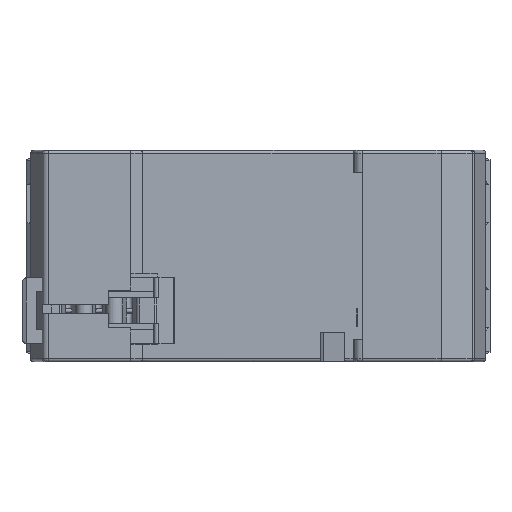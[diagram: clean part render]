
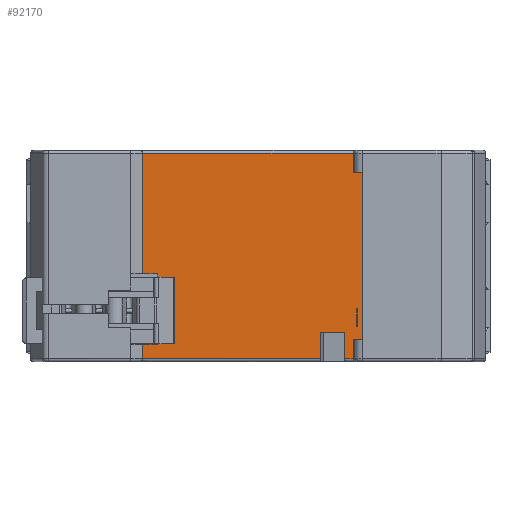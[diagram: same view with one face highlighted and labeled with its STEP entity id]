
A CAD part, front view. The second image highlights one B-rep face of the part: STEP entity #92170.
In plain terms, the highlighted planar face has unit normal (0, -1, 0).
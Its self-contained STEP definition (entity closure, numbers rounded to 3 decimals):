
#5303=DIRECTION('',(0.,0.,1.));
#5304=VECTOR('',#5303,34.6);
#5305=CARTESIAN_POINT('',(56.5,5.5,-17.3));
#5306=LINE('',#5305,#5304);
#5315=DIRECTION('',(1.,0.,0.));
#5316=VECTOR('',#5315,0.556);
#5317=CARTESIAN_POINT('',(22.,5.5,-14.8));
#5318=LINE('',#5317,#5316);
#5319=DIRECTION('',(0.,0.,1.));
#5320=VECTOR('',#5319,11.2);
#5321=CARTESIAN_POINT('',(22.556,5.5,-14.8));
#5322=LINE('',#5321,#5320);
#5323=DIRECTION('',(1.,0.,0.));
#5324=VECTOR('',#5323,0.556);
#5325=CARTESIAN_POINT('',(22.,5.5,-3.6));
#5326=LINE('',#5325,#5324);
#5327=DIRECTION('',(1.,0.,0.));
#5328=VECTOR('',#5327,2.5);
#5329=CARTESIAN_POINT('',(19.5,5.5,-2.95));
#5330=LINE('',#5329,#5328);
#5331=DIRECTION('',(0.,0.,1.));
#5332=VECTOR('',#5331,20.25);
#5333=CARTESIAN_POINT('',(19.5,5.5,-2.95));
#5334=LINE('',#5333,#5332);
#5335=DIRECTION('',(1.,0.,0.));
#5336=VECTOR('',#5335,37.);
#5337=CARTESIAN_POINT('',(19.5,5.5,17.3));
#5338=LINE('',#5337,#5336);
#5339=DIRECTION('',(-1.,0.,0.));
#5340=VECTOR('',#5339,2.938);
#5341=CARTESIAN_POINT('',(56.5,5.5,-17.3));
#5342=LINE('',#5341,#5340);
#5343=DIRECTION('',(0.,0.,1.));
#5344=VECTOR('',#5343,4.5);
#5345=CARTESIAN_POINT('',(53.562,5.5,-17.3));
#5346=LINE('',#5345,#5344);
#5347=DIRECTION('',(-1.,0.,0.));
#5348=VECTOR('',#5347,4.062);
#5349=CARTESIAN_POINT('',(53.562,5.5,-12.8));
#5350=LINE('',#5349,#5348);
#5351=DIRECTION('',(0.,0.,1.));
#5352=VECTOR('',#5351,4.5);
#5353=CARTESIAN_POINT('',(49.5,5.5,-17.3));
#5354=LINE('',#5353,#5352);
#5355=DIRECTION('',(-1.,0.,0.));
#5356=VECTOR('',#5355,30.);
#5357=CARTESIAN_POINT('',(49.5,5.5,-17.3));
#5358=LINE('',#5357,#5356);
#5359=DIRECTION('',(0.,0.,-1.));
#5360=VECTOR('',#5359,2.4);
#5361=CARTESIAN_POINT('',(19.5,5.5,-14.9));
#5362=LINE('',#5361,#5360);
#5363=DIRECTION('',(1.,0.,0.));
#5364=VECTOR('',#5363,2.5);
#5365=CARTESIAN_POINT('',(19.5,5.5,-14.9));
#5366=LINE('',#5365,#5364);
#5367=DIRECTION('',(0.,0.,-1.));
#5368=VECTOR('',#5367,2.95);
#5369=CARTESIAN_POINT('',(55.7,5.5,-8.9));
#5370=LINE('',#5369,#5368);
#5371=DIRECTION('',(0.,0.,-1.));
#5372=VECTOR('',#5371,2.95);
#5373=CARTESIAN_POINT('',(55.6,5.5,-8.9));
#5374=LINE('',#5373,#5372);
#5375=DIRECTION('',(1.,0.,0.));
#5376=VECTOR('',#5375,0.1);
#5377=CARTESIAN_POINT('',(55.6,5.5,-11.85));
#5378=LINE('',#5377,#5376);
#5437=DIRECTION('',(0.,0.,-1.));
#5438=VECTOR('',#5437,0.1);
#5439=CARTESIAN_POINT('',(22.,5.5,-14.8));
#5440=LINE('',#5439,#5438);
#40027=DIRECTION('',(-1.,0.,0.));
#40028=VECTOR('',#40027,0.1);
#40029=CARTESIAN_POINT('',(55.7,5.5,-8.9));
#40030=LINE('',#40029,#40028);
#51307=DIRECTION('',(0.,0.,-1.));
#51308=VECTOR('',#51307,0.65);
#51309=CARTESIAN_POINT('',(22.,5.5,-2.95));
#51310=LINE('',#51309,#51308);
#66842=CARTESIAN_POINT('',(49.5,5.5,-17.3));
#66866=CARTESIAN_POINT('',(53.562,5.5,-17.3));
#69165=CARTESIAN_POINT('',(19.5,5.5,-14.9));
#69166=CARTESIAN_POINT('',(22.,5.5,-14.9));
#69167=VERTEX_POINT('',#69165);
#69168=VERTEX_POINT('',#69166);
#71359=CARTESIAN_POINT('',(53.562,5.5,-12.8));
#71360=CARTESIAN_POINT('',(49.5,5.5,-12.8));
#71361=VERTEX_POINT('',#71359);
#71362=VERTEX_POINT('',#71360);
#71919=CARTESIAN_POINT('',(56.5,5.5,-17.3));
#71920=VERTEX_POINT('',#71919);
#71922=VERTEX_POINT('',#66866);
#71923=VERTEX_POINT('',#66842);
#71927=CARTESIAN_POINT('',(19.5,5.5,-17.3));
#71928=VERTEX_POINT('',#71927);
#73098=CARTESIAN_POINT('',(55.7,5.5,-11.85));
#73099=VERTEX_POINT('',#73098);
#75012=CARTESIAN_POINT('',(55.6,5.5,-8.9));
#75014=VERTEX_POINT('',#75012);
#75100=CARTESIAN_POINT('',(19.5,5.5,-2.95));
#75101=CARTESIAN_POINT('',(22.,5.5,-2.95));
#75102=VERTEX_POINT('',#75100);
#75103=VERTEX_POINT('',#75101);
#77962=CARTESIAN_POINT('',(55.6,5.5,-11.85));
#77964=VERTEX_POINT('',#77962);
#77967=CARTESIAN_POINT('',(55.7,5.5,-8.9));
#77969=VERTEX_POINT('',#77967);
#82422=CARTESIAN_POINT('',(56.5,5.5,17.3));
#82423=VERTEX_POINT('',#82422);
#82426=CARTESIAN_POINT('',(19.5,5.5,17.3));
#82427=VERTEX_POINT('',#82426);
#86588=CARTESIAN_POINT('',(22.,5.5,-14.8));
#86589=CARTESIAN_POINT('',(22.556,5.5,-14.8));
#86590=VERTEX_POINT('',#86588);
#86591=VERTEX_POINT('',#86589);
#86592=CARTESIAN_POINT('',(22.,5.5,-3.6));
#86593=CARTESIAN_POINT('',(22.556,5.5,-3.6));
#86594=VERTEX_POINT('',#86592);
#86595=VERTEX_POINT('',#86593);
#92122=CARTESIAN_POINT('',(19.5,5.5,-8.9));
#92123=DIRECTION('',(0.,-1.,0.));
#92124=DIRECTION('',(1.,0.,0.));
#92125=AXIS2_PLACEMENT_3D('',#92122,#92123,#92124);
#92126=PLANE('',#92125);
#92128=ORIENTED_EDGE('',*,*,#92127,.T.);
#92130=ORIENTED_EDGE('',*,*,#92129,.T.);
#92132=ORIENTED_EDGE('',*,*,#92131,.F.);
#92134=ORIENTED_EDGE('',*,*,#92133,.F.);
#92136=ORIENTED_EDGE('',*,*,#92135,.F.);
#92138=ORIENTED_EDGE('',*,*,#92137,.T.);
#92140=ORIENTED_EDGE('',*,*,#92139,.T.);
#92141=ORIENTED_EDGE('',*,*,#92104,.F.);
#92143=ORIENTED_EDGE('',*,*,#92142,.T.);
#92145=ORIENTED_EDGE('',*,*,#92144,.T.);
#92147=ORIENTED_EDGE('',*,*,#92146,.T.);
#92149=ORIENTED_EDGE('',*,*,#92148,.F.);
#92151=ORIENTED_EDGE('',*,*,#92150,.T.);
#92153=ORIENTED_EDGE('',*,*,#92152,.F.);
#92155=ORIENTED_EDGE('',*,*,#92154,.T.);
#92157=ORIENTED_EDGE('',*,*,#92156,.F.);
#92158=EDGE_LOOP('',(#92128,#92130,#92132,#92134,#92136,#92138,#92140,#92141,
#92143,#92145,#92147,#92149,#92151,#92153,#92155,#92157));
#92159=FACE_OUTER_BOUND('',#92158,.F.);
#92161=ORIENTED_EDGE('',*,*,#92160,.F.);
#92163=ORIENTED_EDGE('',*,*,#92162,.T.);
#92165=ORIENTED_EDGE('',*,*,#92164,.T.);
#92167=ORIENTED_EDGE('',*,*,#92166,.T.);
#92168=EDGE_LOOP('',(#92161,#92163,#92165,#92167));
#92169=FACE_BOUND('',#92168,.F.);
#92170=ADVANCED_FACE('',(#92159,#92169),#92126,.T.);
#92104=EDGE_CURVE('',#71920,#82423,#5306,.T.);
#92127=EDGE_CURVE('',#86590,#86591,#5318,.T.);
#92129=EDGE_CURVE('',#86591,#86595,#5322,.T.);
#92131=EDGE_CURVE('',#86594,#86595,#5326,.T.);
#92133=EDGE_CURVE('',#75103,#86594,#51310,.T.);
#92135=EDGE_CURVE('',#75102,#75103,#5330,.T.);
#92137=EDGE_CURVE('',#75102,#82427,#5334,.T.);
#92139=EDGE_CURVE('',#82427,#82423,#5338,.T.);
#92142=EDGE_CURVE('',#71920,#71922,#5342,.T.);
#92144=EDGE_CURVE('',#71922,#71361,#5346,.T.);
#92146=EDGE_CURVE('',#71361,#71362,#5350,.T.);
#92148=EDGE_CURVE('',#71923,#71362,#5354,.T.);
#92150=EDGE_CURVE('',#71923,#71928,#5358,.T.);
#92152=EDGE_CURVE('',#69167,#71928,#5362,.T.);
#92154=EDGE_CURVE('',#69167,#69168,#5366,.T.);
#92156=EDGE_CURVE('',#86590,#69168,#5440,.T.);
#92160=EDGE_CURVE('',#77969,#73099,#5370,.T.);
#92162=EDGE_CURVE('',#77969,#75014,#40030,.T.);
#92164=EDGE_CURVE('',#75014,#77964,#5374,.T.);
#92166=EDGE_CURVE('',#77964,#73099,#5378,.T.);
